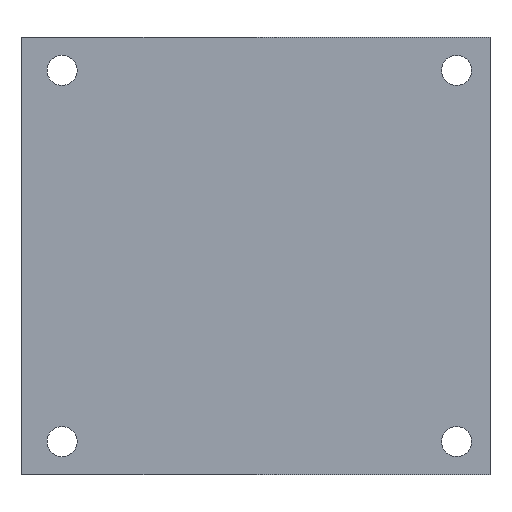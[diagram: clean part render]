
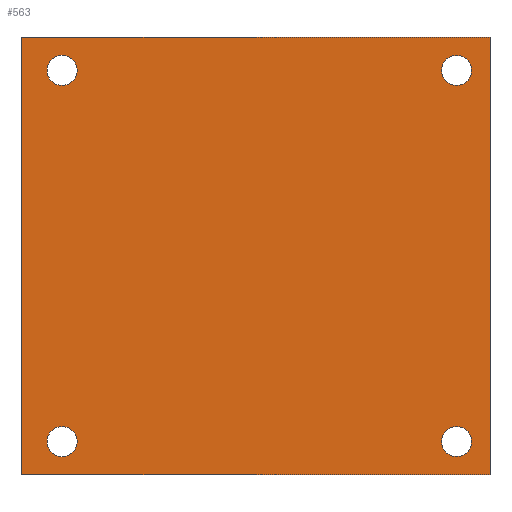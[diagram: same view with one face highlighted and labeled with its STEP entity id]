
A CAD part, front view. The second image highlights one B-rep face of the part: STEP entity #563.
In plain terms, the highlighted planar face has unit normal (0, -1, 0).
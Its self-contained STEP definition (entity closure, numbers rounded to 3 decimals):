
#563=ADVANCED_FACE('',(#980,#981,#982,#983,#984),#985,.F.);
#980=FACE_OUTER_BOUND('',#1413,.T.);
#981=FACE_BOUND('',#1414,.T.);
#982=FACE_BOUND('',#1415,.T.);
#983=FACE_BOUND('',#1416,.T.);
#984=FACE_BOUND('',#1417,.T.);
#985=PLANE('',#1418);
#1413=EDGE_LOOP('',(#2791,#2792,#2793,#2794));
#1414=EDGE_LOOP('',(#2795));
#1415=EDGE_LOOP('',(#2796));
#1416=EDGE_LOOP('',(#2797));
#1417=EDGE_LOOP('',(#2798));
#1418=AXIS2_PLACEMENT_3D('',#2799,#2800,#2801);
#2791=ORIENTED_EDGE('',*,*,#3266,.T.);
#2792=ORIENTED_EDGE('',*,*,#3267,.F.);
#2793=ORIENTED_EDGE('',*,*,#3242,.F.);
#2794=ORIENTED_EDGE('',*,*,#3268,.T.);
#2795=ORIENTED_EDGE('',*,*,#3256,.F.);
#2796=ORIENTED_EDGE('',*,*,#3254,.F.);
#2797=ORIENTED_EDGE('',*,*,#3258,.F.);
#2798=ORIENTED_EDGE('',*,*,#3264,.F.);
#2799=CARTESIAN_POINT('',(0.0,0.0,32.75));
#2800=DIRECTION('',(-0.0,1.0,0.0));
#2801=DIRECTION('',(1.0,0.0,0.0));
#3242=EDGE_CURVE('',#3949,#3951,#3952,.T.);
#3254=EDGE_CURVE('',#3974,#3974,#3975,.T.);
#3256=EDGE_CURVE('',#3978,#3978,#3979,.T.);
#3258=EDGE_CURVE('',#3982,#3982,#3983,.T.);
#3264=EDGE_CURVE('',#3993,#3993,#3994,.T.);
#3266=EDGE_CURVE('',#3997,#3998,#3999,.T.);
#3267=EDGE_CURVE('',#3951,#3998,#4000,.T.);
#3268=EDGE_CURVE('',#3949,#3997,#4001,.T.);
#3949=VERTEX_POINT('',#5106);
#3951=VERTEX_POINT('',#5109);
#3952=LINE('',#5110,#5111);
#3974=VERTEX_POINT('',#5134);
#3975=CIRCLE('',#5135,2.25);
#3978=VERTEX_POINT('',#5138);
#3979=CIRCLE('',#5139,2.25);
#3982=VERTEX_POINT('',#5142);
#3983=CIRCLE('',#5143,2.25);
#3993=VERTEX_POINT('',#5156);
#3994=CIRCLE('',#5157,2.25);
#3997=VERTEX_POINT('',#5160);
#3998=VERTEX_POINT('',#5161);
#3999=LINE('',#5162,#5163);
#4000=LINE('',#5164,#5165);
#4001=LINE('',#5166,#5167);
#5106=CARTESIAN_POINT('',(0.0,0.0,32.75));
#5109=CARTESIAN_POINT('',(70.0,0.0,32.75));
#5110=CARTESIAN_POINT('',(0.0,0.0,32.75));
#5111=VECTOR('',#5726,1.0);
#5134=CARTESIAN_POINT('',(65.0,0.0,-25.5));
#5135=AXIS2_PLACEMENT_3D('',#5758,#5759,#5760);
#5138=CARTESIAN_POINT('',(6.0,0.0,30.0));
#5139=AXIS2_PLACEMENT_3D('',#5764,#5765,#5766);
#5142=CARTESIAN_POINT('',(6.0,0.0,-25.5));
#5143=AXIS2_PLACEMENT_3D('',#5770,#5771,#5772);
#5156=CARTESIAN_POINT('',(65.0,0.0,30.0));
#5157=AXIS2_PLACEMENT_3D('',#5782,#5783,#5784);
#5160=CARTESIAN_POINT('',(0.0,0.0,-32.75));
#5161=CARTESIAN_POINT('',(70.0,0.0,-32.75));
#5162=CARTESIAN_POINT('',(0.0,0.0,-32.75));
#5163=VECTOR('',#5788,1.0);
#5164=CARTESIAN_POINT('',(70.0,0.0,32.75));
#5165=VECTOR('',#5789,1.0);
#5166=CARTESIAN_POINT('',(0.0,0.0,32.75));
#5167=VECTOR('',#5790,1.0);
#5726=DIRECTION('',(1.0,0.0,0.0));
#5758=CARTESIAN_POINT('',(65.0,0.0,-27.75));
#5759=DIRECTION('',(0.0,-1.0,0.0));
#5760=DIRECTION('',(0.0,0.0,1.0));
#5764=CARTESIAN_POINT('',(6.0,0.0,27.75));
#5765=DIRECTION('',(0.0,-1.0,0.0));
#5766=DIRECTION('',(0.0,0.0,1.0));
#5770=CARTESIAN_POINT('',(6.0,0.0,-27.75));
#5771=DIRECTION('',(0.0,-1.0,0.0));
#5772=DIRECTION('',(0.0,0.0,1.0));
#5782=CARTESIAN_POINT('',(65.0,0.0,27.75));
#5783=DIRECTION('',(0.0,-1.0,0.0));
#5784=DIRECTION('',(0.0,0.0,1.0));
#5788=DIRECTION('',(1.0,0.0,0.0));
#5789=DIRECTION('',(0.0,0.0,-1.0));
#5790=DIRECTION('',(0.0,0.0,-1.0));
